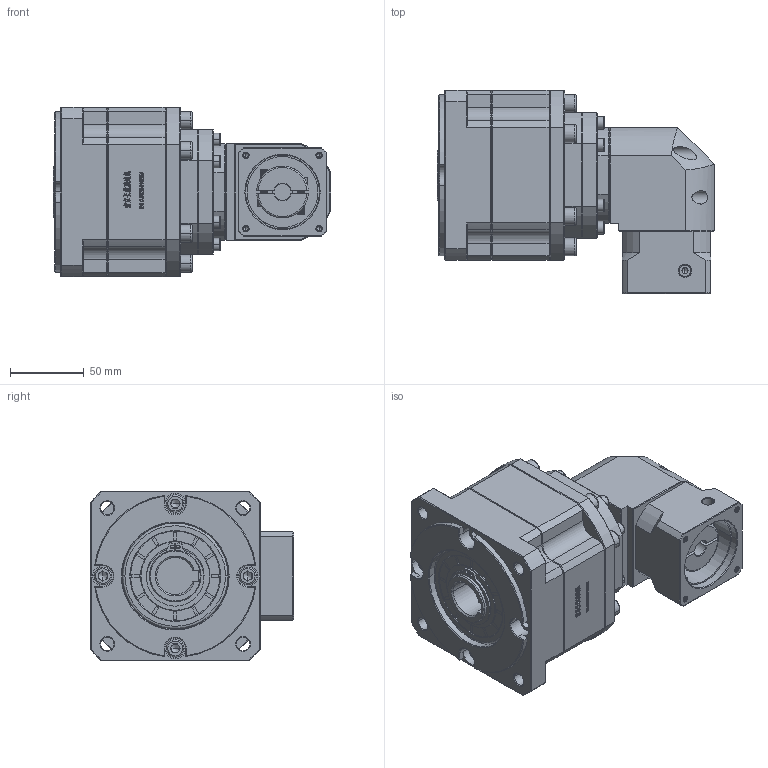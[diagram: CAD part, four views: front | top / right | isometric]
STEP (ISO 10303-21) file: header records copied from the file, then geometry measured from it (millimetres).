
FILE_DESCRIPTION (( 'STEP AP214' ), '1' );
FILE_NAME ('ZB115A-K25-L3-11-50-70-M4.step', '2023-03-03T08:05:10', ( '' ), ( 'Microsoft' ), 'SwSTEP 2.0', 'SolidWorks 2016', '' );
FILE_SCHEMA (( 'AUTOMOTIVE_DESIGN' ));
Length unit declared in the file: millimetre
Products named in the file (1): ZB115A-K25-L3-11-50-70-M4
Bounding box: 187.5 x 137.7 x 115 mm (x, y, z)
Volume: 1507936.4 mm3; surface area: 142621.5 mm2
Topology: 6 solids, 6 shells, 3175 faces, 8461 edges, 5448 vertices
Faces by surface type: plane 1712, bspline 616, cylinder 444, cone 383, torus 20
Entity records: 162676 total; most frequent: CARTESIAN_POINT 53203, ORIENTED_EDGE 16802, DIRECTION 13154, EDGE_CURVE 8401, VECTOR 5608, LINE 5608, VERTEX_POINT 5448, AXIS2_PLACEMENT_3D 3773
